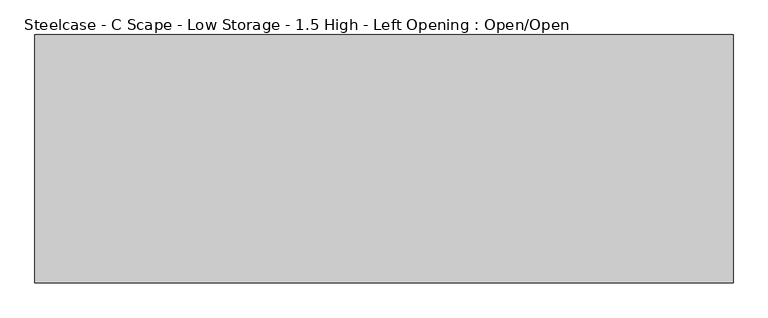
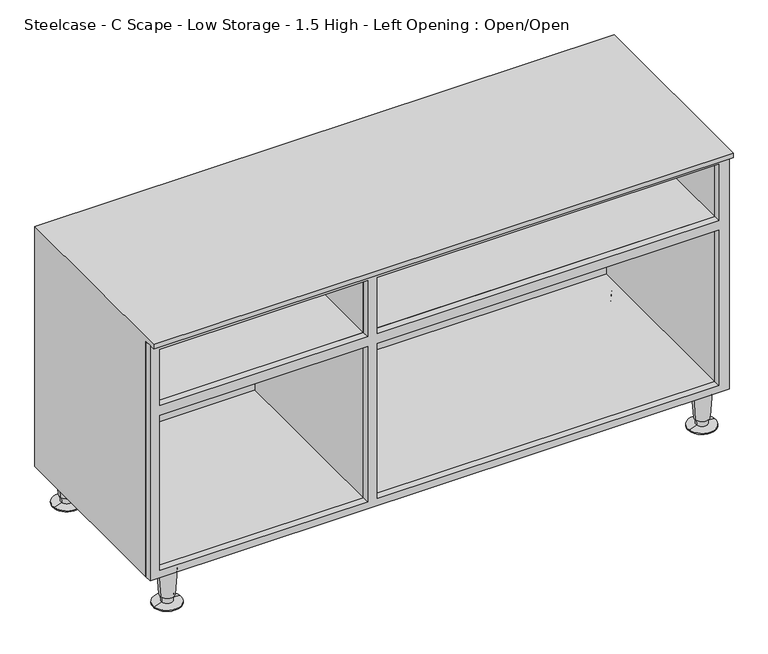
"""IFC4 building model written with IfcOpenShell, lengths in millimetres: furniture geometry, Steelcase - C Scape - Low Storage - 1.5 High - Left Opening : Open/Open."""

from ifc_helpers import new_model, si_unit, frame, origin, place, context, project, spatial, polyline, circle_curve, outline, extrude, faceted_brep, source, transform, mapped, element, save
from ifc_brep_helpers import plane_surface, cylinder_surface, revolved_surface, advanced_brep


def steelcase_c_scape_low_storage_1_5_high_left_opening_open_8e207af9(model_context):
    return source(origin(), model_context, "Body", "SolidModel", [
        extrude(outline(polyline([(76.2, 0.0), (76.2, 1217.93), (599.4400097, 1217.93), (599.4400097, 0.0), (76.2, 0.0)]), holes=[polyline([(91.4201587, 20.700907), (436.8419, 20.700907), (436.8419, 457.2), (91.4201587, 457.2), (91.4201587, 20.700907)]), polyline([(583.5451587, 1195.959248), (458.7875121, 1195.959248), (458.7875121, 478.1549612), (583.5451587, 478.1549612), (583.5451587, 1195.959248)]), polyline([(458.7875121, 20.700907), (583.5451587, 20.700907), (583.5451587, 457.2), (458.7875121, 457.2), (458.7875121, 20.700907)]), polyline([(91.4201587, 1195.959248), (91.4201587, 478.1549612), (436.8419, 478.1549612), (436.8419, 1195.959248), (91.4201587, 1195.959248)])]), frame((0.0, -419.3540543, 0.0), z_axis=(0.0, 1.0, 0.0), x_axis=(0.0, 0.0, 1.0)), (0.0, 0.0, 1.0), 14.9860039),
        advanced_brep(
        [(1190.0494568, -31.5218435, 76.2), (1152.3877179, -37.2840847, 76.2), (1171.2185874, -34.4029641, 76.2), (1186.0991088, -32.1262463, 19.05), (1156.3380659, -36.6796819, 19.05), (1183.6695219, -32.4979728, 19.05), (1158.7676529, -36.3079555, 19.05), (1182.9807524, -32.6033544, 5.7545598), (1159.4564224, -36.2025738, 5.7545598), (1200.3296359, -29.9489775, 2.5119506), (1142.1075389, -38.8569507, 2.5119506), (1200.3296359, -29.9489775, 0.0), (1142.1075389, -38.8569507, 0.0), (1171.2185874, -34.4029641, 0.0)],
        [
            (0, 1, circle_curve(frame((1171.2185874, -34.4029641, 76.2), z_axis=(0.0, 0.0, 1.0), x_axis=(0.0, -1.0, 0.0)), 19.05)),
            (1, 2),
            (2, 0),
            (1, 0, circle_curve(frame((1171.2185874, -34.4029641, 76.2), z_axis=(0.0, 0.0, 1.0), x_axis=(0.0, -1.0, 0.0)), 19.05)),
            (3, 4, circle_curve(frame((1171.2185874, -34.4029641, 19.05), z_axis=(0.0, 0.0, 1.0), x_axis=(0.0, -1.0, 0.0)), 15.0536827)),
            (4, 1),
            (0, 3),
            (4, 3, circle_curve(frame((1171.2185874, -34.4029641, 19.05), z_axis=(0.0, 0.0, 1.0), x_axis=(0.0, -1.0, 0.0)), 15.0536827)),
            (5, 6, circle_curve(frame((1171.2185874, -34.4029641, 19.05), z_axis=(0.0, 0.0, 1.0), x_axis=(0.0, -1.0, 0.0)), 12.5958232)),
            (6, 4),
            (3, 5),
            (6, 5, circle_curve(frame((1171.2185874, -34.4029641, 19.05), z_axis=(0.0, 0.0, 1.0), x_axis=(0.0, -1.0, 0.0)), 12.5958232)),
            (7, 8, circle_curve(frame((1171.2185874, -34.4029641, 5.7545598), z_axis=(0.0, 0.0, 1.0), x_axis=(0.0, -1.0, 0.0)), 11.8990387)),
            (8, 6),
            (5, 7),
            (8, 7, circle_curve(frame((1171.2185874, -34.4029641, 5.7545598), z_axis=(0.0, 0.0, 1.0), x_axis=(0.0, -1.0, 0.0)), 11.8990387)),
            (9, 10, circle_curve(frame((1171.2185874, -34.4029641, 2.5119506), z_axis=(0.0, 0.0, 1.0), x_axis=(0.0, -1.0, 0.0)), 29.4498071)),
            (10, 8),
            (7, 9),
            (10, 9, circle_curve(frame((1171.2185874, -34.4029641, 2.5119506), z_axis=(0.0, 0.0, 1.0), x_axis=(0.0, -1.0, 0.0)), 29.4498071)),
            (11, 12, circle_curve(frame((1171.2185874, -34.4029641, 0.0), z_axis=(0.0, 0.0, 1.0), x_axis=(0.0, -1.0, 0.0)), 29.4498071)),
            (12, 10),
            (9, 11),
            (12, 11, circle_curve(frame((1171.2185874, -34.4029641, 0.0), z_axis=(0.0, 0.0, 1.0), x_axis=(0.0, -1.0, 0.0)), 29.4498071)),
            (13, 12),
            (11, 13),
        ],
        [
            plane_surface(frame((1171.2185874, -34.4029641, 76.2), z_axis=(0.0, 0.0, 1.0), x_axis=(0.0, -1.0, 0.0))),
            revolved_surface(polyline([(1171.2185874, -53.4529641, 76.2), (1171.2185874, -49.4566468, 19.05)]), (1171.2185874, -34.4029641, 25.4), (0.0, 0.0, -1.0)),
            plane_surface(frame((1171.2185874, -34.4029641, 19.05), z_axis=(0.0, 0.0, -1.0), x_axis=(0.0, -1.0, 0.0))),
            revolved_surface(polyline([(1171.2185874, -46.9987873, 19.05), (1171.2185874, -46.3020028, 5.7545598)]), (1171.2185874, -34.4029641, 25.4), (0.0, 0.0, -1.0)),
            revolved_surface(polyline([(1171.2185874, -46.3020028, 5.7545598), (1171.2185874, -63.8527712, 2.5119506)]), (1171.2185874, -34.4029641, 25.4), (0.0, 0.0, -1.0)),
            cylinder_surface(frame((1171.2185874, -34.4029641, 25.4), z_axis=(0.0, 0.0, -1.0), x_axis=(0.0, -1.0, 0.0)), 29.4498071),
            plane_surface(frame((1171.2185874, -34.4029641, 0.0), z_axis=(0.0, 0.0, -1.0), x_axis=(0.0, -1.0, 0.0))),
        ],
        [
            (0, [[1, 2, 3]]),
            (0, [[4, -3, -2]]),
            (1, [[5, 6, -1, 7]]),
            (1, [[8, -7, -4, -6]]),
            (2, [[9, 10, -5, 11]]),
            (2, [[12, -11, -8, -10]]),
            (3, [[13, 14, -9, 15]]),
            (3, [[16, -15, -12, -14]]),
            (4, [[17, 18, -13, 19]]),
            (4, [[20, -19, -16, -18]]),
            (5, [[21, 22, -17, 23]]),
            (5, [[24, -23, -20, -22]]),
            (6, [[25, -21, 26]]),
            (6, [[-26, -24, -25]]),
        ],
    ),
        advanced_brep(
        [(1190.0494568, -397.1702762, 76.2), (1152.3877179, -402.9325174, 76.2), (1171.2185874, -400.0513968, 76.2), (1186.0991088, -397.774679, 19.05), (1156.3380659, -402.3281146, 19.05), (1183.6695219, -398.1464055, 19.05), (1158.7676529, -401.9563882, 19.05), (1182.9807524, -398.2517871, 5.7545598), (1159.4564224, -401.8510065, 5.7545598), (1200.3296359, -395.5974102, 2.5119506), (1142.1075389, -404.5053834, 2.5119506), (1200.3296359, -395.5974102, 0.0), (1142.1075389, -404.5053834, 0.0), (1171.2185874, -400.0513968, 0.0)],
        [
            (0, 1, circle_curve(frame((1171.2185874, -400.0513968, 76.2), z_axis=(0.0, 0.0, 1.0), x_axis=(0.0, -1.0, 0.0)), 19.05)),
            (1, 2),
            (2, 0),
            (1, 0, circle_curve(frame((1171.2185874, -400.0513968, 76.2), z_axis=(0.0, 0.0, 1.0), x_axis=(0.0, -1.0, 0.0)), 19.05)),
            (3, 4, circle_curve(frame((1171.2185874, -400.0513968, 19.05), z_axis=(0.0, 0.0, 1.0), x_axis=(0.0, -1.0, 0.0)), 15.0536827)),
            (4, 1),
            (0, 3),
            (4, 3, circle_curve(frame((1171.2185874, -400.0513968, 19.05), z_axis=(0.0, 0.0, 1.0), x_axis=(0.0, -1.0, 0.0)), 15.0536827)),
            (5, 6, circle_curve(frame((1171.2185874, -400.0513968, 19.05), z_axis=(0.0, 0.0, 1.0), x_axis=(0.0, -1.0, 0.0)), 12.5958232)),
            (6, 4),
            (3, 5),
            (6, 5, circle_curve(frame((1171.2185874, -400.0513968, 19.05), z_axis=(0.0, 0.0, 1.0), x_axis=(0.0, -1.0, 0.0)), 12.5958232)),
            (7, 8, circle_curve(frame((1171.2185874, -400.0513968, 5.7545598), z_axis=(0.0, 0.0, 1.0), x_axis=(0.0, -1.0, 0.0)), 11.8990387)),
            (8, 6),
            (5, 7),
            (8, 7, circle_curve(frame((1171.2185874, -400.0513968, 5.7545598), z_axis=(0.0, 0.0, 1.0), x_axis=(0.0, -1.0, 0.0)), 11.8990387)),
            (9, 10, circle_curve(frame((1171.2185874, -400.0513968, 2.5119506), z_axis=(0.0, 0.0, 1.0), x_axis=(0.0, -1.0, 0.0)), 29.4498071)),
            (10, 8),
            (7, 9),
            (10, 9, circle_curve(frame((1171.2185874, -400.0513968, 2.5119506), z_axis=(0.0, 0.0, 1.0), x_axis=(0.0, -1.0, 0.0)), 29.4498071)),
            (11, 12, circle_curve(frame((1171.2185874, -400.0513968, 0.0), z_axis=(0.0, 0.0, 1.0), x_axis=(0.0, -1.0, 0.0)), 29.4498071)),
            (12, 10),
            (9, 11),
            (12, 11, circle_curve(frame((1171.2185874, -400.0513968, 0.0), z_axis=(0.0, 0.0, 1.0), x_axis=(0.0, -1.0, 0.0)), 29.4498071)),
            (13, 12),
            (11, 13),
        ],
        [
            plane_surface(frame((1171.2185874, -400.0513968, 76.2), z_axis=(0.0, 0.0, 1.0), x_axis=(0.0, -1.0, 0.0))),
            revolved_surface(polyline([(1171.2185874, -419.1013968, 76.2), (1171.2185874, -415.1050795, 19.05)]), (1171.2185874, -400.0513968, 25.4), (0.0, 0.0, -1.0)),
            plane_surface(frame((1171.2185874, -400.0513968, 19.05), z_axis=(0.0, 0.0, -1.0), x_axis=(0.0, -1.0, 0.0))),
            revolved_surface(polyline([(1171.2185874, -412.64722, 19.05), (1171.2185874, -411.9504355, 5.7545598)]), (1171.2185874, -400.0513968, 25.4), (0.0, 0.0, -1.0)),
            revolved_surface(polyline([(1171.2185874, -411.9504355, 5.7545598), (1171.2185874, -429.5012039, 2.5119506)]), (1171.2185874, -400.0513968, 25.4), (0.0, 0.0, -1.0)),
            cylinder_surface(frame((1171.2185874, -400.0513968, 25.4), z_axis=(0.0, 0.0, -1.0), x_axis=(0.0, -1.0, 0.0)), 29.4498071),
            plane_surface(frame((1171.2185874, -400.0513968, 0.0), z_axis=(0.0, 0.0, -1.0), x_axis=(0.0, -1.0, 0.0))),
        ],
        [
            (0, [[1, 2, 3]]),
            (0, [[4, -3, -2]]),
            (1, [[5, 6, -1, 7]]),
            (1, [[8, -7, -4, -6]]),
            (2, [[9, 10, -5, 11]]),
            (2, [[12, -11, -8, -10]]),
            (3, [[13, 14, -9, 15]]),
            (3, [[16, -15, -12, -14]]),
            (4, [[17, 18, -13, 19]]),
            (4, [[20, -19, -16, -18]]),
            (5, [[21, 22, -17, 23]]),
            (5, [[24, -23, -20, -22]]),
            (6, [[25, -21, 26]]),
            (6, [[-26, -24, -25]]),
        ],
    ),
        advanced_brep(
        [(65.6621195, -397.1702762, 76.2), (28.0003805, -402.9325174, 76.2), (46.83125, -400.0513968, 76.2), (61.7117714, -397.774679, 19.05), (31.9507286, -402.3281146, 19.05), (59.2821845, -398.1464055, 19.05), (34.3803155, -401.9563882, 19.05), (58.593415, -398.2517871, 5.7545598), (35.069085, -401.8510065, 5.7545598), (75.9422985, -395.5974102, 2.5119506), (17.7202015, -404.5053834, 2.5119506), (75.9422985, -395.5974102, 0.0), (17.7202015, -404.5053834, 0.0), (46.83125, -400.0513968, 0.0)],
        [
            (0, 1, circle_curve(frame((46.83125, -400.0513968, 76.2), z_axis=(0.0, 0.0, 1.0), x_axis=(0.0, -1.0, 0.0)), 19.05)),
            (1, 2),
            (2, 0),
            (1, 0, circle_curve(frame((46.83125, -400.0513968, 76.2), z_axis=(0.0, 0.0, 1.0), x_axis=(0.0, -1.0, 0.0)), 19.05)),
            (3, 4, circle_curve(frame((46.83125, -400.0513968, 19.05), z_axis=(0.0, 0.0, 1.0), x_axis=(0.0, -1.0, 0.0)), 15.0536827)),
            (4, 1),
            (0, 3),
            (4, 3, circle_curve(frame((46.83125, -400.0513968, 19.05), z_axis=(0.0, 0.0, 1.0), x_axis=(0.0, -1.0, 0.0)), 15.0536827)),
            (5, 6, circle_curve(frame((46.83125, -400.0513968, 19.05), z_axis=(0.0, 0.0, 1.0), x_axis=(0.0, -1.0, 0.0)), 12.5958232)),
            (6, 4),
            (3, 5),
            (6, 5, circle_curve(frame((46.83125, -400.0513968, 19.05), z_axis=(0.0, 0.0, 1.0), x_axis=(0.0, -1.0, 0.0)), 12.5958232)),
            (7, 8, circle_curve(frame((46.83125, -400.0513968, 5.7545598), z_axis=(0.0, 0.0, 1.0), x_axis=(0.0, -1.0, 0.0)), 11.8990387)),
            (8, 6),
            (5, 7),
            (8, 7, circle_curve(frame((46.83125, -400.0513968, 5.7545598), z_axis=(0.0, 0.0, 1.0), x_axis=(0.0, -1.0, 0.0)), 11.8990387)),
            (9, 10, circle_curve(frame((46.83125, -400.0513968, 2.5119506), z_axis=(0.0, 0.0, 1.0), x_axis=(0.0, -1.0, 0.0)), 29.4498071)),
            (10, 8),
            (7, 9),
            (10, 9, circle_curve(frame((46.83125, -400.0513968, 2.5119506), z_axis=(0.0, 0.0, 1.0), x_axis=(0.0, -1.0, 0.0)), 29.4498071)),
            (11, 12, circle_curve(frame((46.83125, -400.0513968, 0.0), z_axis=(0.0, 0.0, 1.0), x_axis=(0.0, -1.0, 0.0)), 29.4498071)),
            (12, 10),
            (9, 11),
            (12, 11, circle_curve(frame((46.83125, -400.0513968, 0.0), z_axis=(0.0, 0.0, 1.0), x_axis=(0.0, -1.0, 0.0)), 29.4498071)),
            (13, 12),
            (11, 13),
        ],
        [
            plane_surface(frame((46.83125, -400.0513968, 76.2), z_axis=(0.0, 0.0, 1.0), x_axis=(0.0, -1.0, 0.0))),
            revolved_surface(polyline([(46.83125, -419.1013968, 76.2), (46.83125, -415.1050795, 19.05)]), (46.83125, -400.0513968, 25.4), (0.0, 0.0, -1.0)),
            plane_surface(frame((46.83125, -400.0513968, 19.05), z_axis=(0.0, 0.0, -1.0), x_axis=(0.0, -1.0, 0.0))),
            revolved_surface(polyline([(46.83125, -412.64722, 19.05), (46.83125, -411.9504355, 5.7545598)]), (46.83125, -400.0513968, 25.4), (0.0, 0.0, -1.0)),
            revolved_surface(polyline([(46.83125, -411.9504355, 5.7545598), (46.83125, -429.5012039, 2.5119506)]), (46.83125, -400.0513968, 25.4), (0.0, 0.0, -1.0)),
            cylinder_surface(frame((46.83125, -400.0513968, 25.4), z_axis=(0.0, 0.0, -1.0), x_axis=(0.0, -1.0, 0.0)), 29.4498071),
            plane_surface(frame((46.83125, -400.0513968, 0.0), z_axis=(0.0, 0.0, -1.0), x_axis=(0.0, -1.0, 0.0))),
        ],
        [
            (0, [[1, 2, 3]]),
            (0, [[4, -3, -2]]),
            (1, [[5, 6, -1, 7]]),
            (1, [[8, -7, -4, -6]]),
            (2, [[9, 10, -5, 11]]),
            (2, [[12, -11, -8, -10]]),
            (3, [[13, 14, -9, 15]]),
            (3, [[16, -15, -12, -14]]),
            (4, [[17, 18, -13, 19]]),
            (4, [[20, -19, -16, -18]]),
            (5, [[21, 22, -17, 23]]),
            (5, [[24, -23, -20, -22]]),
            (6, [[25, -21, 26]]),
            (6, [[-26, -24, -25]]),
        ],
    ),
        advanced_brep(
        [(65.6621195, -31.5218435, 76.2), (28.0003805, -37.2840847, 76.2), (46.83125, -34.4029641, 76.2), (61.7117714, -32.1262463, 19.05), (31.9507286, -36.6796819, 19.05), (59.2821845, -32.4979728, 19.05), (34.3803155, -36.3079555, 19.05), (58.593415, -32.6033544, 5.7545598), (35.069085, -36.2025738, 5.7545598), (75.9422985, -29.9489775, 2.5119506), (17.7202015, -38.8569507, 2.5119506), (75.9422985, -29.9489775, 0.0), (17.7202015, -38.8569507, 0.0), (46.83125, -34.4029641, 0.0)],
        [
            (0, 1, circle_curve(frame((46.83125, -34.4029641, 76.2), z_axis=(0.0, 0.0, 1.0), x_axis=(0.0, -1.0, 0.0)), 19.05)),
            (1, 2),
            (2, 0),
            (1, 0, circle_curve(frame((46.83125, -34.4029641, 76.2), z_axis=(0.0, 0.0, 1.0), x_axis=(0.0, -1.0, 0.0)), 19.05)),
            (3, 4, circle_curve(frame((46.83125, -34.4029641, 19.05), z_axis=(0.0, 0.0, 1.0), x_axis=(0.0, -1.0, 0.0)), 15.0536827)),
            (4, 1),
            (0, 3),
            (4, 3, circle_curve(frame((46.83125, -34.4029641, 19.05), z_axis=(0.0, 0.0, 1.0), x_axis=(0.0, -1.0, 0.0)), 15.0536827)),
            (5, 6, circle_curve(frame((46.83125, -34.4029641, 19.05), z_axis=(0.0, 0.0, 1.0), x_axis=(0.0, -1.0, 0.0)), 12.5958232)),
            (6, 4),
            (3, 5),
            (6, 5, circle_curve(frame((46.83125, -34.4029641, 19.05), z_axis=(0.0, 0.0, 1.0), x_axis=(0.0, -1.0, 0.0)), 12.5958232)),
            (7, 8, circle_curve(frame((46.83125, -34.4029641, 5.7545598), z_axis=(0.0, 0.0, 1.0), x_axis=(0.0, -1.0, 0.0)), 11.8990387)),
            (8, 6),
            (5, 7),
            (8, 7, circle_curve(frame((46.83125, -34.4029641, 5.7545598), z_axis=(0.0, 0.0, 1.0), x_axis=(0.0, -1.0, 0.0)), 11.8990387)),
            (9, 10, circle_curve(frame((46.83125, -34.4029641, 2.5119506), z_axis=(0.0, 0.0, 1.0), x_axis=(0.0, -1.0, 0.0)), 29.4498071)),
            (10, 8),
            (7, 9),
            (10, 9, circle_curve(frame((46.83125, -34.4029641, 2.5119506), z_axis=(0.0, 0.0, 1.0), x_axis=(0.0, -1.0, 0.0)), 29.4498071)),
            (11, 12, circle_curve(frame((46.83125, -34.4029641, 0.0), z_axis=(0.0, 0.0, 1.0), x_axis=(0.0, -1.0, 0.0)), 29.4498071)),
            (12, 10),
            (9, 11),
            (12, 11, circle_curve(frame((46.83125, -34.4029641, 0.0), z_axis=(0.0, 0.0, 1.0), x_axis=(0.0, -1.0, 0.0)), 29.4498071)),
            (13, 12),
            (11, 13),
        ],
        [
            plane_surface(frame((46.83125, -34.4029641, 76.2), z_axis=(0.0, 0.0, 1.0), x_axis=(0.0, -1.0, 0.0))),
            revolved_surface(polyline([(46.83125, -53.4529641, 76.2), (46.83125, -49.4566468, 19.05)]), (46.83125, -34.4029641, 25.4), (0.0, 0.0, -1.0)),
            plane_surface(frame((46.83125, -34.4029641, 19.05), z_axis=(0.0, 0.0, -1.0), x_axis=(0.0, -1.0, 0.0))),
            revolved_surface(polyline([(46.83125, -46.9987873, 19.05), (46.83125, -46.3020028, 5.7545598)]), (46.83125, -34.4029641, 25.4), (0.0, 0.0, -1.0)),
            revolved_surface(polyline([(46.83125, -46.3020028, 5.7545598), (46.83125, -63.8527712, 2.5119506)]), (46.83125, -34.4029641, 25.4), (0.0, 0.0, -1.0)),
            cylinder_surface(frame((46.83125, -34.4029641, 25.4), z_axis=(0.0, 0.0, -1.0), x_axis=(0.0, -1.0, 0.0)), 29.4498071),
            plane_surface(frame((46.83125, -34.4029641, 0.0), z_axis=(0.0, 0.0, -1.0), x_axis=(0.0, -1.0, 0.0))),
        ],
        [
            (0, [[1, 2, 3]]),
            (0, [[4, -3, -2]]),
            (1, [[5, 6, -1, 7]]),
            (1, [[8, -7, -4, -6]]),
            (2, [[9, 10, -5, 11]]),
            (2, [[12, -11, -8, -10]]),
            (3, [[13, 14, -9, 15]]),
            (3, [[16, -15, -12, -14]]),
            (4, [[17, 18, -13, 19]]),
            (4, [[20, -19, -16, -18]]),
            (5, [[21, 22, -17, 23]]),
            (5, [[24, -23, -20, -22]]),
            (6, [[25, -21, 26]]),
            (6, [[-26, -24, -25]]),
        ],
    ),
        faceted_brep([(0.0, 0.0, 76.2), (0.0, -404.3680504, 76.2), (0.0, -404.3680504, 599.4400097), (0.0, -433.07, 599.4400097), (0.0, -433.07, 609.6), (0.0, 0.0, 609.6), (1217.93, -404.3680504, 76.2), (1217.93, -404.3680504, 599.4400097), (1195.959248, -404.3680504, 599.4400097), (1195.959248, -404.3680504, 458.7875121), (463.5487203, -404.3680504, 458.7875121), (463.5487203, -404.3680504, 599.4400097), (457.2, -404.3680504, 599.4400097), (457.2, -404.3680504, 458.7875121), (20.700907, -404.3680504, 458.7875121), (20.700907, -404.3680504, 599.4400097), (1195.959248, -404.3680504, 91.4201587), (463.5487203, -404.3680504, 91.4201587), (463.5487203, -404.3680504, 436.8419), (1195.959248, -404.3680504, 436.8419), (457.2, -404.3680504, 91.4201587), (20.700907, -404.3680504, 91.4201587), (20.700907, -404.3680504, 436.8419), (457.2, -404.3680504, 436.8419), (20.700907, -9.525, 91.4201587), (20.700907, -9.525, 436.8419), (20.700907, -9.525, 458.7875121), (20.700907, -9.525, 599.4400097), (457.2, -9.525, 91.4201587), (457.2, -9.525, 436.8419), (457.2, -9.525, 458.7875121), (457.2, -9.525, 599.4400097), (463.5487203, -9.525, 91.4201587), (463.5487203, -9.525, 436.8419), (463.5487203, -9.525, 458.7875121), (463.5487203, -9.525, 599.4400097), (1195.959248, -9.525, 91.4201587), (1195.959248, -9.525, 436.8419), (1195.959248, -9.525, 458.7875121), (1195.959248, -9.525, 599.4400097), (1217.93, 0.0, 76.2), (1217.93, 0.0, 609.6), (1217.93, -433.07, 609.6), (1217.93, -433.07, 599.4400097)], [[[0, 1, 2, 3, 4, 5]], [[1, 6, 7, 8, 9, 10, 11, 12, 13, 14, 15, 2], [16, 17, 18, 19], [20, 21, 22, 23]], [[21, 24, 25, 22]], [[14, 26, 27, 15]], [[24, 28, 29, 25]], [[26, 30, 31, 27]], [[28, 20, 23, 29]], [[30, 13, 12, 31]], [[17, 32, 33, 18]], [[10, 34, 35, 11]], [[32, 36, 37, 33]], [[34, 38, 39, 35]], [[36, 16, 19, 37]], [[38, 9, 8, 39]], [[6, 40, 41, 42, 43, 7]], [[41, 40, 0, 5]], [[17, 16, 36, 32]], [[21, 20, 28, 24]], [[0, 40, 6, 1]], [[10, 9, 38, 34]], [[14, 13, 30, 26]], [[19, 18, 33, 37]], [[23, 22, 25, 29]], [[5, 4, 42, 41]], [[43, 3, 2, 15, 27, 31, 12, 11, 35, 39, 8, 7]], [[42, 4, 3, 43]]]),
    ])


if __name__ == "__main__":
    model = new_model("IFC4")
    model_context = context("Model", 3, world=origin())
    ifc_project = project(units=[si_unit("LENGTHUNIT", "METRE", prefix="MILLI")], contexts=[model_context])
    site = spatial("IfcSite", under=ifc_project)
    building = spatial("IfcBuilding", under=site)
    placement = place(None, origin())
    steelcase_c_scape_low_storage_1_5_high_left_opening_open_shape = steelcase_c_scape_low_storage_1_5_high_left_opening_open_8e207af9(model_context)
    element("IfcFurniture", 1, ObjectType="Steelcase - C Scape - Low Storage - 1.5 High - Left Opening : Open/Open", at=placement, inside=building, context=model_context, shape_type="MappedRepresentation", body=[
        mapped(steelcase_c_scape_low_storage_1_5_high_left_opening_open_shape, transform((0.0, 0.0, 0.0), x_axis=(1.0, 0.0, 0.0), y_axis=(0.0, 1.0, 0.0), z_axis=(0.0, 0.0, 1.0))),
    ])
    save(model, "model.ifc")
